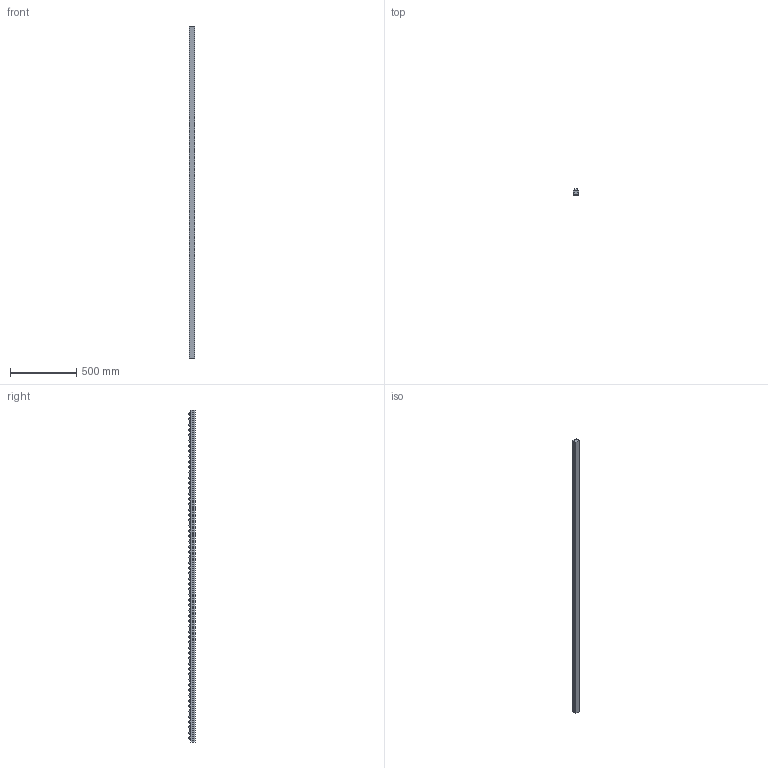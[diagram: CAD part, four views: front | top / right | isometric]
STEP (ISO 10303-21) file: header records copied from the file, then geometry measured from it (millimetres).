
FILE_DESCRIPTION (( 'STEP AP214' ), '1' );
FILE_NAME ('JB-57025A4_JB-57025D4.step', '2024-02-15T05:03:19', ( 'catia' ), ( 'HP Inc.' ), 'SwSTEP 2.0', 'SolidWorks 2021', '' );
FILE_SCHEMA (( 'AUTOMOTIVE_DESIGN' ));
Length unit declared in the file: millimetre
Products named in the file (1): JB-57025A4_JB-57025D4
Bounding box: 40 x 46 x 2500 mm (x, y, z)
Volume: 3487753.8 mm3; surface area: 474682.8 mm2
Topology: 1 solids, 1 shells, 200 faces, 408 edges, 272 vertices
Faces by surface type: plane 138, cylinder 62
Entity records: 5290 total; most frequent: DIRECTION 934, CARTESIAN_POINT 881, ORIENTED_EDGE 816, EDGE_CURVE 408, AXIS2_PLACEMENT_3D 325, VECTOR 284, LINE 284, VERTEX_POINT 272
